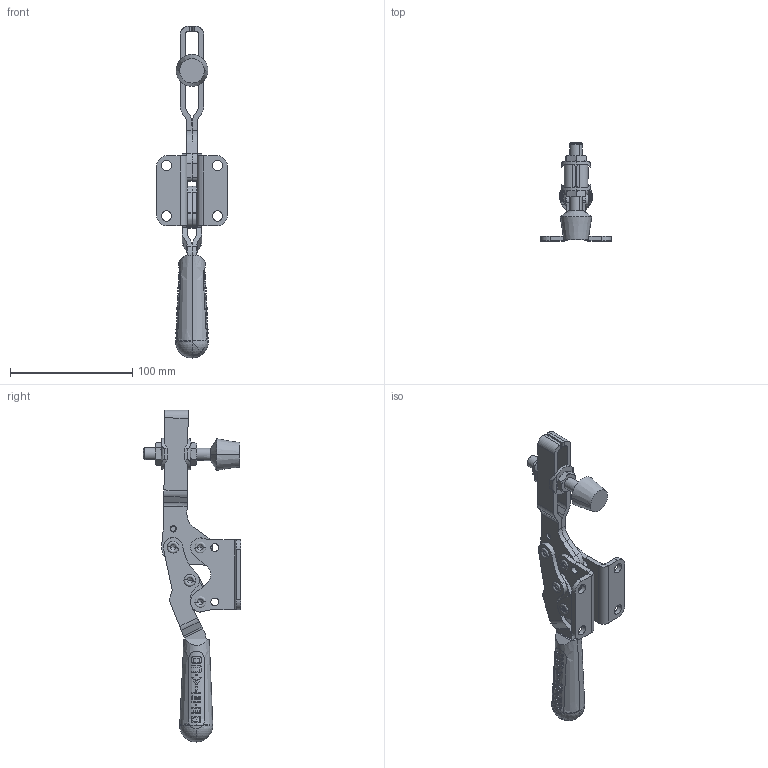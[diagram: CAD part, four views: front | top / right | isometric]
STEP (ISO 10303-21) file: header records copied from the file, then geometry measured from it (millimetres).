
FILE_DESCRIPTION((''),'2;1');
FILE_NAME('001_DESTACO_215_ASM','2024-09-12T',('SYSTEM'),(''),'PRO/ENGINEER BY PARAMETRIC TECHNOLOGY CORPORATION, 2016360','PRO/ENGINEER BY PARAMETRIC TECHNOLOGY CORPORATION, 2016360','');
FILE_SCHEMA(('AUTOMOTIVE_DESIGN { 1 0 10303 214 1 1 1 1 }'));
Length unit declared in the file: millimetre
Products named in the file (28): 235-U-BODY_14; 235-U-BODY_15; 235-U-BODY_5; 235-U-BODY_1; 235-U-BODY_0; 235-U-BODY_ASM; 235-U-BOT-BODY_20; 235-U-BOT-BODY_15; 235-U-BOT-BODY_19; 235-U-BOT-BODY_18; 235-U-BOT-BODY_17; 235-U-BOT-BODY_16_AF0; 235-U-BOT-BODY_11; 235-U-BOT-BODY_0_AF0; 235-U-BOT-BODY_2; 235-U-BOT-BODY_1_AF0; 235-U-BOTTOM_ASM; 235-U-IN-BODY_6; 235-U-IN-BODY_7; 235-U-IN-BODY_5; 235-U-IN-BODY_4; 235-U-INNER_ASM; 235-U-HNAD-BODY_10; 235-U-HNAD-BODY_14; 235-U-HNAD-BODY_9; 235-U-HNAD-BODY_8; 235-U-HANDLE_ASM; 001_DESTACO_215_ASM
Assembly tree (28 placements, depth 3):
  001_DESTACO_215_ASM
    235-U-BODY_ASM
      235-U-BODY_14
      235-U-BODY_15
      235-U-BODY_5
      235-U-BODY_1
      235-U-BODY_0
    235-U-BOTTOM_ASM
      235-U-BOT-BODY_20
      235-U-BOT-BODY_15
      235-U-BOT-BODY_19
      235-U-BOT-BODY_18
      235-U-BOT-BODY_17
      235-U-BOT-BODY_16_AF0
      235-U-BOT-BODY_11
      235-U-BOT-BODY_0_AF0
      235-U-BOT-BODY_2
      235-U-BOT-BODY_1_AF0
    235-U-INNER_ASM  x2
      235-U-IN-BODY_6
      235-U-IN-BODY_7
      235-U-IN-BODY_5
      235-U-IN-BODY_4
    235-U-HANDLE_ASM
      235-U-HNAD-BODY_10
      235-U-HNAD-BODY_14
      235-U-HNAD-BODY_9
      235-U-HNAD-BODY_8
Bounding box: 57.61 x 79.99 x 271.43 mm (x, y, z)
Volume: 135314.3 mm3; surface area: 76220.3 mm2
Topology: 27 solids, 27 shells, 736 faces, 1852 edges, 1193 vertices
Faces by surface type: plane 334, cylinder 267, cone 108, torus 18, sphere 9
Entity records: 32704 total; most frequent: CARTESIAN_POINT 7209, DIRECTION 3596, ORIENTED_EDGE 3474, PRESENTATION_STYLE_ASSIGNMENT 2019, STYLED_ITEM 2019, CURVE_STYLE 1737, EDGE_CURVE 1737, AXIS2_PLACEMENT_3D 1441
